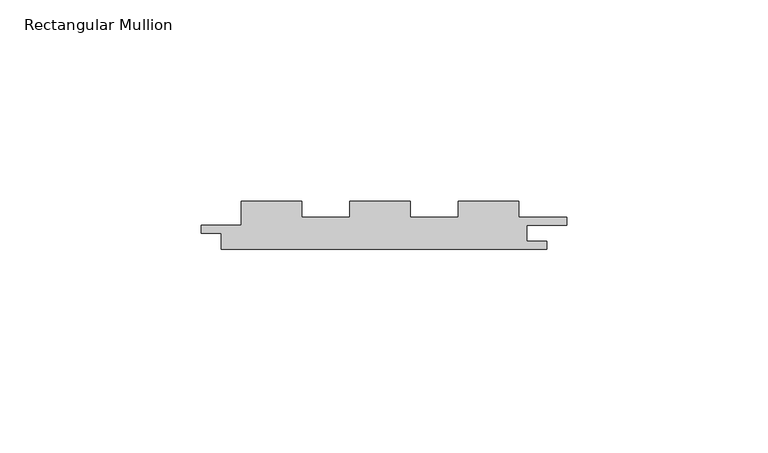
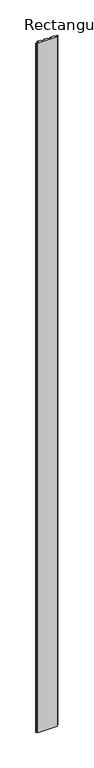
"""IFC4 building model written with IfcOpenShell, lengths in millimetres: member geometry, Rectangular Mullion : Cladding_Timber_Modinex_Castelation_81x12_AlaskanYellowCedar."""

from ifc_helpers import new_model, si_unit, frame, origin, place, context, project, spatial, polyline, outline, extrude, source, transform, mapped, element, save


def rectangular_mullion_4aa68164(model_context):
    return source(origin(), model_context, "Body", "SweptSolid", [
        extrude(outline(polyline([(15.0481486, 8.0), (27.0304703, 8.0), (27.0304703, 12.0), (42.0304703, 12.0), (42.0304703, 8.0), (54.0152351, 8.0), (54.0152351, 12.0), (69.0152351, 12.0), (69.0152351, 8.0), (81.0, 8.0), (81.0, 6.0), (71.0, 6.0), (71.0, 2.0), (76.0481486, 2.0), (76.0481486, 0.0), (-4.9518514, 0.0), (-4.9518514, 4.0), (-9.9518514, 4.0), (-9.9518514, 6.0), (0.0, 6.0), (0.0, 12.0), (15.0481486, 12.0), (15.0481486, 8.0)])), frame((0.0, 0.0, -3000.0), z_axis=(0.0, 0.0, 1.0), x_axis=(1.0, 0.0, 0.0)), (0.0, 0.0, 1.0), 3000.0),
    ])


if __name__ == "__main__":
    model = new_model("IFC4")
    model_context = context("Model", 3, world=origin())
    ifc_project = project(units=[si_unit("LENGTHUNIT", "METRE", prefix="MILLI")], contexts=[model_context])
    site = spatial("IfcSite", under=ifc_project)
    building = spatial("IfcBuilding", under=site)
    placement = place(None, origin())
    rectangular_mullion_shape = rectangular_mullion_4aa68164(model_context)
    element("IfcMember", 1, ObjectType="Rectangular Mullion : Cladding_Timber_Modinex_Castelation_81x12_AlaskanYellowCedar", at=placement, inside=building, context=model_context, shape_type="MappedRepresentation", body=[
        mapped(rectangular_mullion_shape, transform((0.0, 0.0, 0.0), x_axis=(1.0, 0.0, 0.0), y_axis=(0.0, 1.0, 0.0), z_axis=(0.0, 0.0, 1.0))),
    ])
    save(model, "model.ifc")
